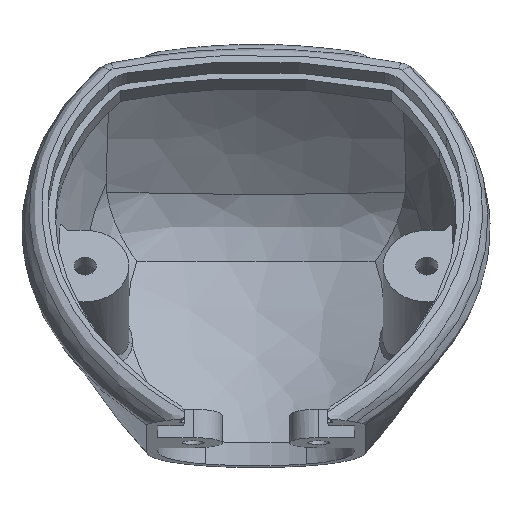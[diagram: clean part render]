
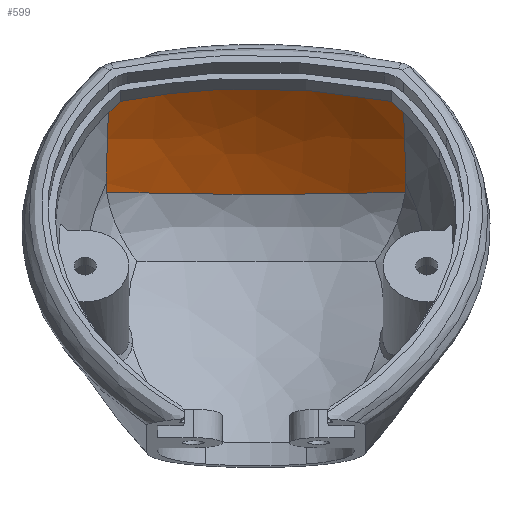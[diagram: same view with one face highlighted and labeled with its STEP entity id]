
A CAD part, front view. The second image highlights one B-rep face of the part: STEP entity #599.
In plain terms, the highlighted free-form (B-spline) face has degree [3, 3] with [4, 7] control points.
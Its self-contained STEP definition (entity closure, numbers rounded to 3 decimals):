
#228=B_SPLINE_SURFACE_WITH_KNOTS('',3,3,((#8323,#8324,#8325,#8326,#8327,
#8328,#8329),(#8330,#8331,#8332,#8333,#8334,#8335,#8336),(#8337,#8338,#8339,
#8340,#8341,#8342,#8343),(#8344,#8345,#8346,#8347,#8348,#8349,#8350)),.UNSPECIFIED.,
 .F.,.F.,.F.,(4,4),(4,3,4),(0.,1.),(0.,0.5,1.),.UNSPECIFIED.);
#384=FACE_OUTER_BOUND('',#1528,.T.);
#599=ADVANCED_FACE('',(#384),#228,.T.);
#1060=B_SPLINE_CURVE_WITH_KNOTS('',3,(#4596,#4597,#4598,#4599),.UNSPECIFIED.,
 .F.,.F.,(4,4),(0.,1.),.UNSPECIFIED.);
#1062=B_SPLINE_CURVE_WITH_KNOTS('',3,(#4606,#4607,#4608,#4609),.UNSPECIFIED.,
 .F.,.F.,(4,4),(0.,1.),.UNSPECIFIED.);
#1101=B_SPLINE_CURVE_WITH_KNOTS('',3,(#5193,#5194,#5195,#5196),.UNSPECIFIED.,
 .F.,.F.,(4,4),(0.,1.),.UNSPECIFIED.);
#1146=B_SPLINE_CURVE_WITH_KNOTS('',3,(#6154,#6155,#6156,#6157),.UNSPECIFIED.,
 .F.,.F.,(4,4),(0.,1.),.UNSPECIFIED.);
#1155=B_SPLINE_CURVE_WITH_KNOTS('',3,(#6478,#6479,#6480,#6481),.UNSPECIFIED.,
 .F.,.F.,(4,4),(0.,1.),.UNSPECIFIED.);
#1166=B_SPLINE_CURVE_WITH_KNOTS('',3,(#6613,#6614,#6615,#6616),.UNSPECIFIED.,
 .F.,.F.,(4,4),(0.,1.),.UNSPECIFIED.);
#1199=B_SPLINE_CURVE_WITH_KNOTS('',3,(#7013,#7014,#7015,#7016),.UNSPECIFIED.,
 .F.,.F.,(4,4),(0.,1.),.UNSPECIFIED.);
#1245=B_SPLINE_CURVE_WITH_KNOTS('',3,(#8315,#8316,#8317,#8318,#8319,#8320,
#8321,#8322),.UNSPECIFIED.,.F.,.F.,(4,2,2,4),(0.,0.25,0.5,1.),.UNSPECIFIED.);
#1528=EDGE_LOOP('',(#2093,#2094,#2095,#2096,#2097,#2098,#2099,#2100));
#2093=ORIENTED_EDGE('',*,*,#3374,.T.);
#2094=ORIENTED_EDGE('',*,*,#3253,.T.);
#2095=ORIENTED_EDGE('',*,*,#3435,.T.);
#2096=ORIENTED_EDGE('',*,*,#3251,.T.);
#2097=ORIENTED_EDGE('',*,*,#3365,.F.);
#2098=ORIENTED_EDGE('',*,*,#3320,.T.);
#2099=ORIENTED_EDGE('',*,*,#3485,.F.);
#2100=ORIENTED_EDGE('',*,*,#3385,.F.);
#2888=VERTEX_POINT('',#4595);
#2889=VERTEX_POINT('',#4600);
#2890=VERTEX_POINT('',#4605);
#2891=VERTEX_POINT('',#4610);
#2947=VERTEX_POINT('',#5162);
#2951=VERTEX_POINT('',#5192);
#2995=VERTEX_POINT('',#6482);
#3003=VERTEX_POINT('',#6617);
#3251=EDGE_CURVE('',#2889,#2888,#1060,.T.);
#3253=EDGE_CURVE('',#2891,#2890,#1062,.T.);
#3320=EDGE_CURVE('',#2947,#2951,#1101,.T.);
#3365=EDGE_CURVE('',#2947,#2888,#1146,.T.);
#3374=EDGE_CURVE('',#2995,#2891,#1155,.T.);
#3385=EDGE_CURVE('',#2995,#3003,#1166,.T.);
#3435=EDGE_CURVE('',#2890,#2889,#1199,.T.);
#3485=EDGE_CURVE('',#3003,#2951,#1245,.T.);
#4595=CARTESIAN_POINT('',(69.573,105.135,222.431));
#4596=CARTESIAN_POINT('',(82.873,106.624,224.557));
#4597=CARTESIAN_POINT('',(78.37,106.375,224.202));
#4598=CARTESIAN_POINT('',(73.913,105.887,223.504));
#4599=CARTESIAN_POINT('',(69.573,105.135,222.431));
#4600=CARTESIAN_POINT('',(82.873,106.624,224.557));
#4605=CARTESIAN_POINT('',(96.703,106.624,224.557));
#4606=CARTESIAN_POINT('',(110.003,105.135,222.431));
#4607=CARTESIAN_POINT('',(105.663,105.887,223.504));
#4608=CARTESIAN_POINT('',(101.206,106.375,224.202));
#4609=CARTESIAN_POINT('',(96.703,106.624,224.557));
#4610=CARTESIAN_POINT('',(110.003,105.135,222.431));
#5162=CARTESIAN_POINT('',(69.19,112.547,210.71));
#5192=CARTESIAN_POINT('',(69.262,113.234,209.467));
#5193=CARTESIAN_POINT('',(69.19,112.547,210.71));
#5194=CARTESIAN_POINT('',(69.181,112.767,210.29));
#5195=CARTESIAN_POINT('',(69.203,112.996,209.873));
#5196=CARTESIAN_POINT('',(69.262,113.234,209.467));
#6154=CARTESIAN_POINT('',(69.19,112.547,210.71));
#6155=CARTESIAN_POINT('',(69.281,110.401,214.815));
#6156=CARTESIAN_POINT('',(69.423,107.929,218.74));
#6157=CARTESIAN_POINT('',(69.573,105.135,222.431));
#6478=CARTESIAN_POINT('',(110.386,112.547,210.71));
#6479=CARTESIAN_POINT('',(110.295,110.4,214.816));
#6480=CARTESIAN_POINT('',(110.153,107.925,218.745));
#6481=CARTESIAN_POINT('',(110.003,105.135,222.431));
#6482=CARTESIAN_POINT('',(110.386,112.547,210.71));
#6613=CARTESIAN_POINT('',(110.386,112.547,210.71));
#6614=CARTESIAN_POINT('',(110.395,112.767,210.29));
#6615=CARTESIAN_POINT('',(110.373,112.996,209.873));
#6616=CARTESIAN_POINT('',(110.313,113.234,209.467));
#6617=CARTESIAN_POINT('',(110.313,113.234,209.467));
#7013=CARTESIAN_POINT('',(96.703,106.624,224.557));
#7014=CARTESIAN_POINT('',(92.13,107.059,224.723));
#7015=CARTESIAN_POINT('',(87.469,107.061,224.723));
#7016=CARTESIAN_POINT('',(82.873,106.624,224.557));
#8315=CARTESIAN_POINT('',(110.313,113.234,209.467));
#8316=CARTESIAN_POINT('',(107.126,114.852,209.423));
#8317=CARTESIAN_POINT('',(103.779,116.14,209.338));
#8318=CARTESIAN_POINT('',(96.881,117.877,209.22));
#8319=CARTESIAN_POINT('',(93.37,118.326,209.184));
#8320=CARTESIAN_POINT('',(82.636,118.327,209.184));
#8321=CARTESIAN_POINT('',(75.637,116.47,209.379));
#8322=CARTESIAN_POINT('',(69.262,113.234,209.467));
#8323=CARTESIAN_POINT('',(110.79,113.55,208.352));
#8324=CARTESIAN_POINT('',(104.316,116.707,208.812));
#8325=CARTESIAN_POINT('',(97.053,118.383,209.082));
#8326=CARTESIAN_POINT('',(89.788,118.383,209.082));
#8327=CARTESIAN_POINT('',(82.523,118.383,209.082));
#8328=CARTESIAN_POINT('',(75.259,116.707,208.812));
#8329=CARTESIAN_POINT('',(68.785,113.55,208.352));
#8330=CARTESIAN_POINT('',(110.59,111.126,213.5));
#8331=CARTESIAN_POINT('',(104.077,113.794,214.337));
#8332=CARTESIAN_POINT('',(96.933,115.194,214.8));
#8333=CARTESIAN_POINT('',(89.788,115.194,214.8));
#8334=CARTESIAN_POINT('',(82.643,115.194,214.8));
#8335=CARTESIAN_POINT('',(75.498,113.794,214.337));
#8336=CARTESIAN_POINT('',(68.985,111.126,213.5));
#8337=CARTESIAN_POINT('',(110.396,108.15,218.384));
#8338=CARTESIAN_POINT('',(103.836,110.218,219.508));
#8339=CARTESIAN_POINT('',(96.812,111.285,220.12));
#8340=CARTESIAN_POINT('',(89.788,111.285,220.12));
#8341=CARTESIAN_POINT('',(82.764,111.285,220.12));
#8342=CARTESIAN_POINT('',(75.739,110.218,219.508));
#8343=CARTESIAN_POINT('',(69.179,108.15,218.384));
#8344=CARTESIAN_POINT('',(110.221,104.698,222.894));
#8345=CARTESIAN_POINT('',(103.596,106.087,224.172));
#8346=CARTESIAN_POINT('',(96.692,106.779,224.868));
#8347=CARTESIAN_POINT('',(89.788,106.779,224.868));
#8348=CARTESIAN_POINT('',(82.884,106.779,224.868));
#8349=CARTESIAN_POINT('',(75.979,106.087,224.172));
#8350=CARTESIAN_POINT('',(69.355,104.698,222.893));
